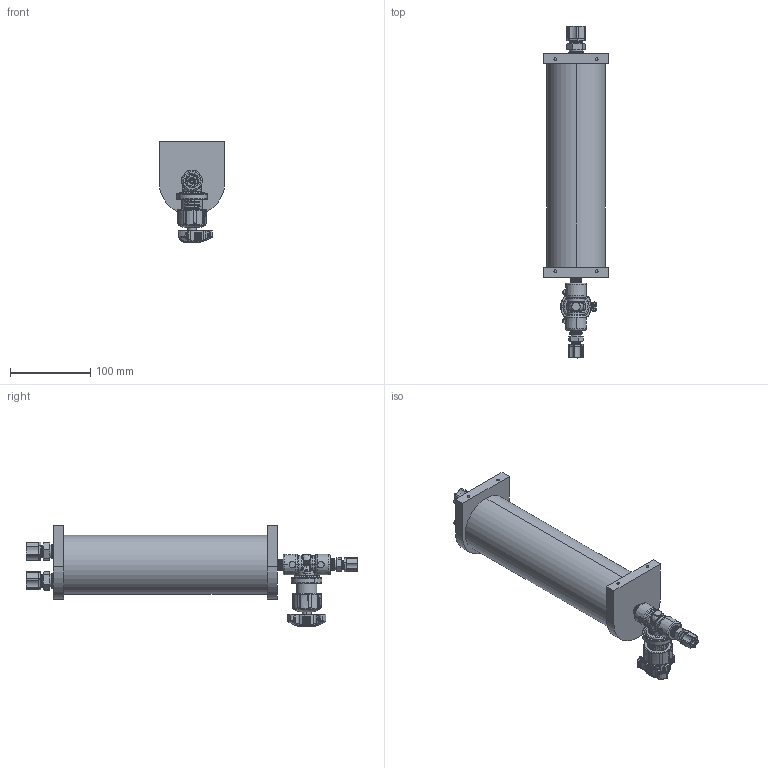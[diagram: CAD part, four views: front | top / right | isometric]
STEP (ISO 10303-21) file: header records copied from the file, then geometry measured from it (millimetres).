
FILE_DESCRIPTION (( 'STEP AP203' ), '1' );
FILE_NAME ('190811.STEP', '2019-09-12T17:49:38', ( '' ), ( '' ), 'SwSTEP 2.0', 'SolidWorks 2019', '' );
FILE_SCHEMA (( 'CONFIG_CONTROL_DESIGN' ));
Products named in the file (12): 102550; NV-N-X; 102518_5016K444; NV-C-X; 101455_5016K422; NV-R-X; 100670_6810K111; 100671; Insert_Ring_Needle_Valve; 190811; NV-GB2-X_1; NV-H-X
Assembly tree (12 placements, depth 3):
  190811
    102550
    102518_5016K444  x2
    101455_5016K422
    100670_6810K111
    100671
      Insert_Ring_Needle_Valve
      NV-GB2-X_1
      NV-H-X
      NV-N-X
      NV-C-X
      NV-R-X
Bounding box: 81.79 x 412.74 x 126.66 mm (x, y, z)
Volume: 533527.1 mm3; surface area: 200665.8 mm2
Topology: 18 solids, 18 shells, 3621 faces, 9228 edges, 5666 vertices
Faces by surface type: bspline 1808, cylinder 752, plane 696, cone 311, torus 54
Entity records: 411924 total; most frequent: CARTESIAN_POINT 344256, ORIENTED_EDGE 17462, EDGE_CURVE 8731, DIRECTION 8383, VERTEX_POINT 5397, B_SPLINE_CURVE_WITH_KNOTS 4388, EDGE_LOOP 3576, ADVANCED_FACE 3456
